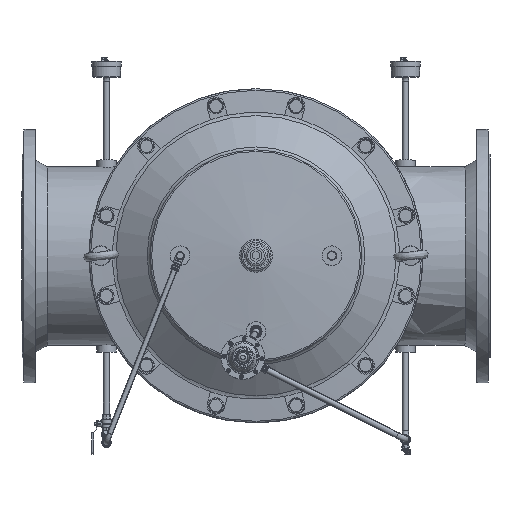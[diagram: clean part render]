
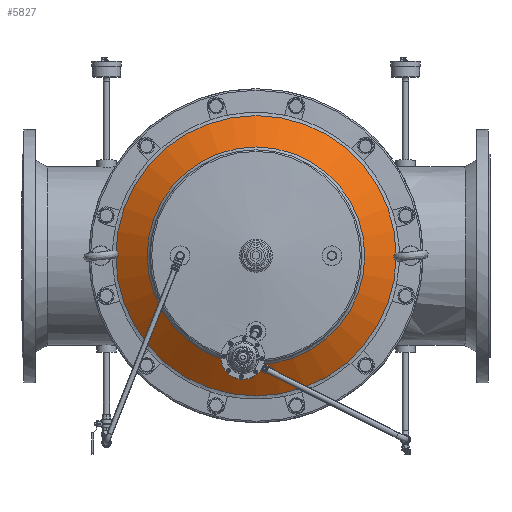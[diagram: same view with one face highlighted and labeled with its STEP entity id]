
A CAD part, top view. The second image highlights one B-rep face of the part: STEP entity #5827.
In plain terms, the highlighted conical face has half-angle 55.178 degrees and reference radius 226.052 mm.
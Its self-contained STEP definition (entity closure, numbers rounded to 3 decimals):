
#5827=ADVANCED_FACE('',(#19333,#19335),#19337,.T.);
#19333=FACE_OUTER_BOUND('',#19334,.T.);
#19334=EDGE_LOOP('',(#43618));
#19335=FACE_OUTER_BOUND('',#19336,.T.);
#19336=EDGE_LOOP('',(#43619));
#19337=CONICAL_SURFACE('',#19338,226.052,0.963);
#19338=AXIS2_PLACEMENT_3D('',#19339,#19340,#19341);
#19339=CARTESIAN_POINT('',(0.,-38.014,0.));
#19340=DIRECTION('',(0.,1.,0.));
#19341=DIRECTION('',(-1.,0.,0.));
#43618=ORIENTED_EDGE('',*,*,#50699,.F.);
#43619=ORIENTED_EDGE('',*,*,#50681,.F.);
#50681=EDGE_CURVE('',#55843,#55843,#55844,.T.);
#50699=EDGE_CURVE('',#55879,#55879,#55880,.F.);
#55843=VERTEX_POINT('',#82959);
#55844=CIRCLE('',#82960,197.505);
#55879=VERTEX_POINT('',#83049);
#55880=CIRCLE('',#83050,254.6);
#82959=CARTESIAN_POINT('',(197.505,-57.871,0.));
#82960=AXIS2_PLACEMENT_3D('',#82961,#82962,#82963);
#82961=CARTESIAN_POINT('',(0.,-57.871,0.));
#82962=DIRECTION('',(0.,-1.,0.));
#82963=DIRECTION('',(1.,0.,0.));
#83049=CARTESIAN_POINT('',(254.6,-18.157,0.));
#83050=AXIS2_PLACEMENT_3D('',#83051,#83052,#83053);
#83051=CARTESIAN_POINT('',(0.,-18.157,0.));
#83052=DIRECTION('',(0.,-1.,0.));
#83053=DIRECTION('',(1.,0.,0.));
